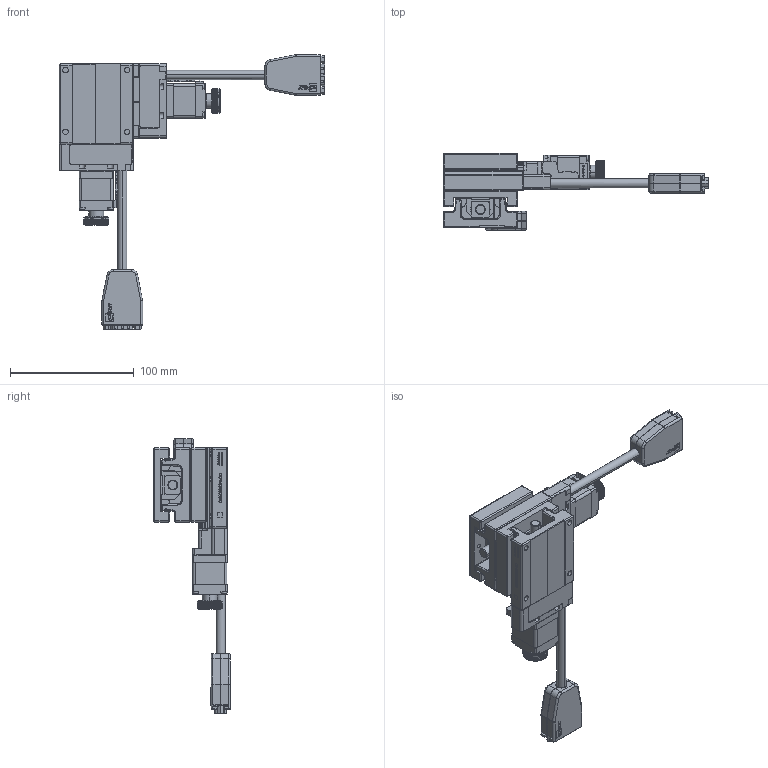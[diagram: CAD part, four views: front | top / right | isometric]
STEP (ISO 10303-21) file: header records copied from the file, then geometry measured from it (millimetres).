
FILE_DESCRIPTION (( 'STEP AP203' ), '1' );
FILE_NAME ('CYS6020-S2PN-CD-模糊化.STEP', '2014-03-21T01:22:10', ( 'user' ), ( '' ), 'SwSTEP 2.0', 'SolidWorks 2013', '' );
FILE_SCHEMA (( 'CONFIG_CONTROL_DESIGN' ));
Length unit declared in the file: millimetre
Products named in the file (4): Group1^CYS6020-S2PN-CD-模糊化; Group3^CYS6020-S2PN-CD-模糊化; Group4^CYS6020-S2PN-CD-模糊化; CYS6020-S2PN-CD-模糊化
Assembly tree (3 placements, depth 2):
  CYS6020-S2PN-CD-模糊化
    Group1^CYS6020-S2PN-CD-模糊化
    Group3^CYS6020-S2PN-CD-模糊化
    Group4^CYS6020-S2PN-CD-模糊化
Bounding box: 214.86 x 62.2 x 222.36 mm (x, y, z)
Volume: 32574.3 mm3; surface area: 113729.4 mm2
Topology: 1 solids, 17 shells, 4883 faces, 13286 edges, 8574 vertices
Faces by surface type: plane 2439, cylinder 1258, bspline 546, torus 400, cone 192, sphere 48
Entity records: 184323 total; most frequent: CARTESIAN_POINT 66154, ORIENTED_EDGE 26044, DIRECTION 22113, EDGE_CURVE 13238, VERTEX_POINT 8574, AXIS2_PLACEMENT_3D 7463, VECTOR 7187, LINE 7187
